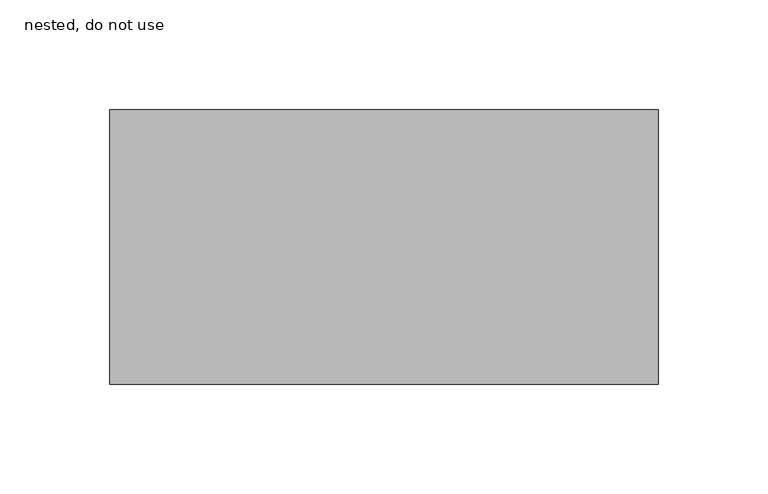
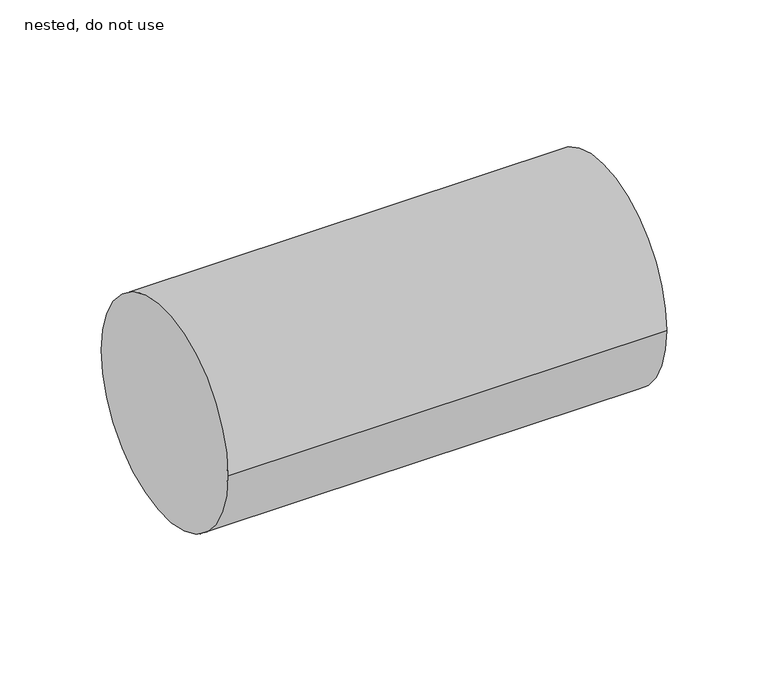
"""IFC4 building model written with IfcOpenShell, lengths in millimetres: pipe segment geometry, NLRS_52_PIF_UN_Vacurain Flex pipe_SH_Dyka : nested, do not use."""

from ifc_helpers import new_model, si_unit, point, frame, origin, origin_2d, place, context, project, spatial, circle_curve, trimmed, segment, composite_curve, outline, extrude, source, transform, mapped, element, save


def nested_do_not_use_b77c716e(model_context):
    return source(origin(), model_context, "Body", "SweptSolid", [
        extrude(outline(composite_curve([segment(trimmed(circle_curve(origin_2d(), 62.5), [point((-62.5, 0.0))], [point((62.5, 0.0))], False, "CARTESIAN"), True, "CONTINUOUS"), segment(trimmed(circle_curve(origin_2d(), 62.5), [point((62.5, 0.0))], [point((-62.5, 0.0))], False, "CARTESIAN"), True, "CONTINUOUS")], self_intersect=False)), frame((0.0, 0.0, 0.0), z_axis=(1.0, 0.0, 0.0), x_axis=(0.0, 1.0, 0.0)), (0.0, 0.0, 1.0), 250.0),
    ])


if __name__ == "__main__":
    model = new_model("IFC4")
    model_context = context("Model", 3, world=origin())
    ifc_project = project(units=[si_unit("LENGTHUNIT", "METRE", prefix="MILLI")], contexts=[model_context])
    site = spatial("IfcSite", under=ifc_project)
    building = spatial("IfcBuilding", under=site)
    placement = place(None, origin())
    nested_do_not_use_shape = nested_do_not_use_b77c716e(model_context)
    element("IfcPipeSegment", 1, ObjectType="NLRS_52_PIF_UN_Vacurain Flex pipe_SH_Dyka : nested, do not use", at=placement, inside=building, context=model_context, shape_type="MappedRepresentation", body=[
        mapped(nested_do_not_use_shape, transform((0.0, 0.0, 0.0), x_axis=(1.0, 0.0, 0.0), y_axis=(0.0, 1.0, 0.0), z_axis=(0.0, 0.0, 1.0))),
    ])
    save(model, "model.ifc")
